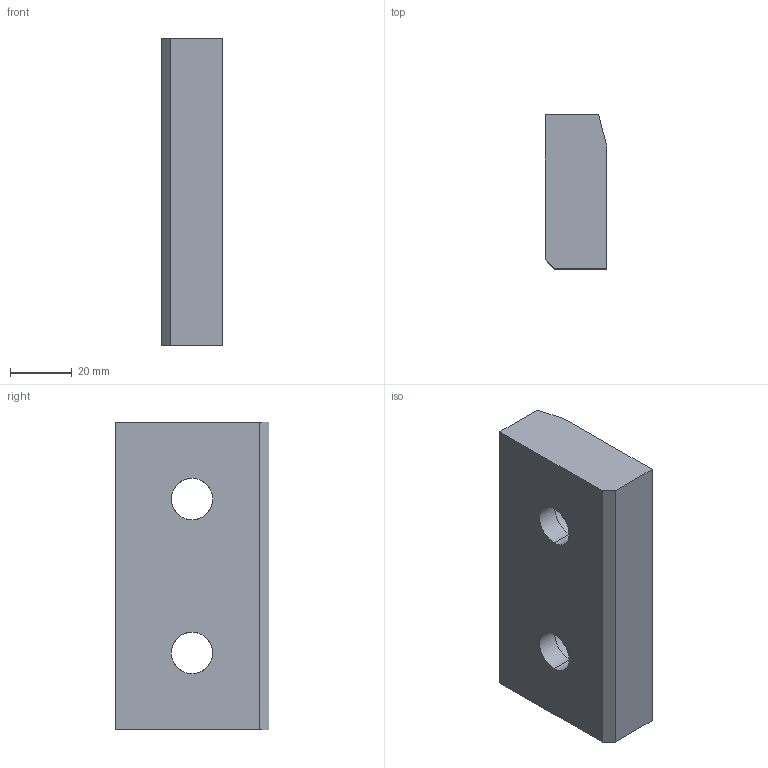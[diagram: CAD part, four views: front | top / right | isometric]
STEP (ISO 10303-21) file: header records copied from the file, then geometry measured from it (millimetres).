
FILE_DESCRIPTION(('CATIA V5 STEP Exchange'),'2;1');
FILE_NAME('C:\Users\borellobunino\Desktop\3D X SITO CF\A915\GSB_OILLESS_G22501100050\STEP-2.03\A915-100X50.stp','2019-07-14T13:08:28+00:00',('none'),('none'),'CATIA Version 5 Release 20 GA (IN-10)','CATIA V5 STEP AP203','none');
FILE_SCHEMA(('CONFIG_CONTROL_DESIGN'));
Length unit declared in the file: millimetre
Products named in the file (1): A915-100X50
Bounding box: 20 x 50 x 100 mm (x, y, z)
Volume: 87777.3 mm3; surface area: 17056 mm2
Topology: 1 solids, 1 shells, 23 faces, 73 edges, 54 vertices
Faces by surface type: plane 10, cylinder 9, torus 4
Entity records: 1057 total; most frequent: CARTESIAN_POINT 375, ORIENTED_EDGE 146, DIRECTION 103, EDGE_CURVE 73, AXIS2_PLACEMENT_3D 54, VERTEX_POINT 54, CIRCLE 30, EDGE_LOOP 29
